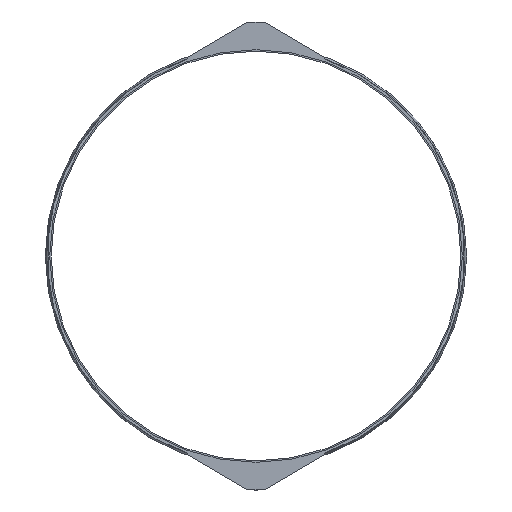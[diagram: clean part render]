
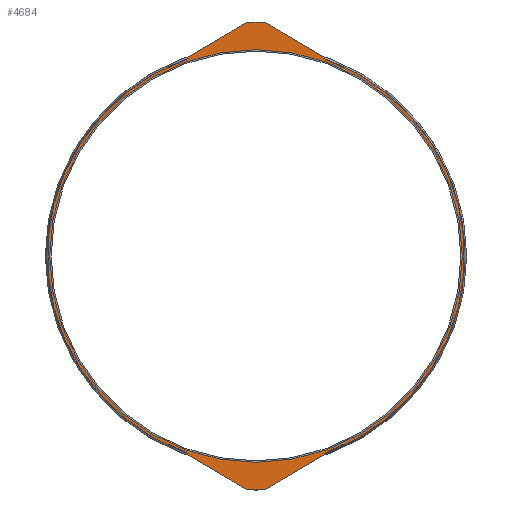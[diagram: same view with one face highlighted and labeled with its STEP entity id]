
A CAD part, left-side view. The second image highlights one B-rep face of the part: STEP entity #4684.
In plain terms, the highlighted planar face has unit normal (-1, 0, 0).
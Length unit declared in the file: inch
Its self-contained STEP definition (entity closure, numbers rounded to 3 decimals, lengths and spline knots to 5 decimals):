
#134=FACE_BOUND('',#814,.T.);
#300=PLANE('',#5095);
#539=FACE_OUTER_BOUND('',#813,.T.);
#813=EDGE_LOOP('',(#4140,#4141,#4142,#4143,#4144,#4145,#4146,#4147,#4148,
#4149,#4150,#4151,#4152,#4153,#4154,#4155,#4156,#4157,#4158,#4159));
#814=EDGE_LOOP('',(#4160,#4161));
#973=LINE('',#6759,#1422);
#977=LINE('',#6771,#1426);
#981=LINE('',#6783,#1430);
#985=LINE('',#6795,#1434);
#987=LINE('',#6800,#1436);
#1206=LINE('',#7611,#1655);
#1210=LINE('',#7623,#1659);
#1214=LINE('',#7635,#1663);
#1218=LINE('',#7645,#1667);
#1221=LINE('',#7651,#1670);
#1422=VECTOR('',#5479,0.3937);
#1426=VECTOR('',#5491,0.3937);
#1430=VECTOR('',#5503,0.3937);
#1434=VECTOR('',#5515,0.3937);
#1436=VECTOR('',#5519,0.3937);
#1655=VECTOR('',#6082,0.3937);
#1659=VECTOR('',#6094,0.3937);
#1663=VECTOR('',#6106,0.3937);
#1667=VECTOR('',#6118,0.3937);
#1670=VECTOR('',#6123,0.3937);
#1739=CIRCLE('',#4808,0.063);
#1741=CIRCLE('',#4812,0.125);
#1743=CIRCLE('',#4816,0.125);
#1745=CIRCLE('',#4820,0.063);
#1750=CIRCLE('',#4829,54.625);
#1803=CIRCLE('',#4993,0.063);
#1805=CIRCLE('',#4997,0.125);
#1807=CIRCLE('',#5001,0.125);
#1809=CIRCLE('',#5005,0.063);
#1811=CIRCLE('',#5011,54.625);
#1863=CIRCLE('',#5093,54.);
#1864=CIRCLE('',#5094,54.);
#1988=VERTEX_POINT('',#6749);
#1989=VERTEX_POINT('',#6751);
#1991=VERTEX_POINT('',#6757);
#1993=VERTEX_POINT('',#6763);
#1995=VERTEX_POINT('',#6769);
#1997=VERTEX_POINT('',#6775);
#1999=VERTEX_POINT('',#6781);
#2001=VERTEX_POINT('',#6787);
#2003=VERTEX_POINT('',#6793);
#2005=VERTEX_POINT('',#6799);
#2014=VERTEX_POINT('',#6821);
#2206=VERTEX_POINT('',#7602);
#2207=VERTEX_POINT('',#7604);
#2209=VERTEX_POINT('',#7610);
#2211=VERTEX_POINT('',#7616);
#2213=VERTEX_POINT('',#7622);
#2215=VERTEX_POINT('',#7628);
#2217=VERTEX_POINT('',#7634);
#2219=VERTEX_POINT('',#7640);
#2221=VERTEX_POINT('',#7649);
#2285=VERTEX_POINT('',#7841);
#2286=VERTEX_POINT('',#7843);
#2468=EDGE_CURVE('',#1988,#1989,#1739,.T.);
#2472=EDGE_CURVE('',#1991,#1988,#973,.T.);
#2475=EDGE_CURVE('',#1993,#1991,#1741,.T.);
#2478=EDGE_CURVE('',#1995,#1993,#977,.T.);
#2481=EDGE_CURVE('',#1997,#1995,#1743,.T.);
#2484=EDGE_CURVE('',#1999,#1997,#981,.T.);
#2487=EDGE_CURVE('',#2001,#1999,#1745,.T.);
#2490=EDGE_CURVE('',#2003,#2001,#985,.T.);
#2492=EDGE_CURVE('',#1989,#2005,#987,.T.);
#2504=EDGE_CURVE('',#2014,#2003,#1750,.T.);
#2790=EDGE_CURVE('',#2207,#2206,#1803,.T.);
#2793=EDGE_CURVE('',#2209,#2207,#1206,.T.);
#2796=EDGE_CURVE('',#2211,#2209,#1805,.T.);
#2799=EDGE_CURVE('',#2213,#2211,#1210,.T.);
#2802=EDGE_CURVE('',#2215,#2213,#1807,.T.);
#2805=EDGE_CURVE('',#2217,#2215,#1214,.T.);
#2808=EDGE_CURVE('',#2219,#2217,#1809,.T.);
#2811=EDGE_CURVE('',#2014,#2219,#1218,.T.);
#2814=EDGE_CURVE('',#2206,#2221,#1221,.T.);
#2819=EDGE_CURVE('',#2005,#2221,#1811,.T.);
#2910=EDGE_CURVE('',#2286,#2285,#1863,.T.);
#2911=EDGE_CURVE('',#2285,#2286,#1864,.T.);
#4140=ORIENTED_EDGE('',*,*,#2504,.F.);
#4141=ORIENTED_EDGE('',*,*,#2811,.T.);
#4142=ORIENTED_EDGE('',*,*,#2808,.T.);
#4143=ORIENTED_EDGE('',*,*,#2805,.T.);
#4144=ORIENTED_EDGE('',*,*,#2802,.T.);
#4145=ORIENTED_EDGE('',*,*,#2799,.T.);
#4146=ORIENTED_EDGE('',*,*,#2796,.T.);
#4147=ORIENTED_EDGE('',*,*,#2793,.T.);
#4148=ORIENTED_EDGE('',*,*,#2790,.T.);
#4149=ORIENTED_EDGE('',*,*,#2814,.T.);
#4150=ORIENTED_EDGE('',*,*,#2819,.F.);
#4151=ORIENTED_EDGE('',*,*,#2492,.F.);
#4152=ORIENTED_EDGE('',*,*,#2468,.F.);
#4153=ORIENTED_EDGE('',*,*,#2472,.F.);
#4154=ORIENTED_EDGE('',*,*,#2475,.F.);
#4155=ORIENTED_EDGE('',*,*,#2478,.F.);
#4156=ORIENTED_EDGE('',*,*,#2481,.F.);
#4157=ORIENTED_EDGE('',*,*,#2484,.F.);
#4158=ORIENTED_EDGE('',*,*,#2487,.F.);
#4159=ORIENTED_EDGE('',*,*,#2490,.F.);
#4160=ORIENTED_EDGE('',*,*,#2910,.T.);
#4161=ORIENTED_EDGE('',*,*,#2911,.T.);
#4684=ADVANCED_FACE('',(#539,#134),#300,.T.);
#4808=AXIS2_PLACEMENT_3D('',#6752,#5472,#5473);
#4812=AXIS2_PLACEMENT_3D('',#6765,#5485,#5486);
#4816=AXIS2_PLACEMENT_3D('',#6777,#5497,#5498);
#4820=AXIS2_PLACEMENT_3D('',#6789,#5509,#5510);
#4829=AXIS2_PLACEMENT_3D('',#6823,#5539,#5540);
#4993=AXIS2_PLACEMENT_3D('',#7605,#6076,#6077);
#4997=AXIS2_PLACEMENT_3D('',#7617,#6088,#6089);
#5001=AXIS2_PLACEMENT_3D('',#7629,#6100,#6101);
#5005=AXIS2_PLACEMENT_3D('',#7641,#6112,#6113);
#5011=AXIS2_PLACEMENT_3D('',#7661,#6133,#6134);
#5093=AXIS2_PLACEMENT_3D('',#7844,#6336,#6337);
#5094=AXIS2_PLACEMENT_3D('',#7845,#6338,#6339);
#5095=AXIS2_PLACEMENT_3D('',#7846,#6340,#6341);
#5472=DIRECTION('center_axis',(1.,0.,0.));
#5473=DIRECTION('ref_axis',(0.,-1.,0.));
#5479=DIRECTION('',(0.,0.862,0.507));
#5485=DIRECTION('center_axis',(1.,0.,0.));
#5486=DIRECTION('ref_axis',(0.,-0.507,0.862));
#5491=DIRECTION('',(0.,1.,0.));
#5497=DIRECTION('center_axis',(1.,0.,0.));
#5498=DIRECTION('ref_axis',(0.,0.,1.));
#5503=DIRECTION('',(0.,0.862,-0.507));
#5509=DIRECTION('center_axis',(1.,0.,0.));
#5510=DIRECTION('ref_axis',(0.,0.507,0.862));
#5515=DIRECTION('',(0.,0.,-1.));
#5519=DIRECTION('',(0.,0.,1.));
#5539=DIRECTION('center_axis',(1.,0.,0.));
#5540=DIRECTION('ref_axis',(0.,0.,-1.));
#6076=DIRECTION('center_axis',(-1.,0.,0.));
#6077=DIRECTION('ref_axis',(0.,-1.,0.));
#6082=DIRECTION('',(0.,0.862,-0.507));
#6088=DIRECTION('center_axis',(-1.,0.,0.));
#6089=DIRECTION('ref_axis',(0.,-0.507,-0.862));
#6094=DIRECTION('',(0.,1.,0.));
#6100=DIRECTION('center_axis',(-1.,0.,0.));
#6101=DIRECTION('ref_axis',(0.,0.,-1.));
#6106=DIRECTION('',(0.,0.862,0.507));
#6112=DIRECTION('center_axis',(-1.,0.,0.));
#6113=DIRECTION('ref_axis',(0.,0.507,-0.862));
#6118=DIRECTION('',(0.,0.,1.));
#6123=DIRECTION('',(0.,0.,-1.));
#6133=DIRECTION('center_axis',(1.,0.,0.));
#6134=DIRECTION('ref_axis',(0.,0.,-1.));
#6336=DIRECTION('center_axis',(1.,0.,0.));
#6337=DIRECTION('ref_axis',(0.,0.,-1.));
#6338=DIRECTION('center_axis',(1.,0.,0.));
#6339=DIRECTION('ref_axis',(0.,0.,-1.));
#6340=DIRECTION('center_axis',(-1.,0.,0.));
#6341=DIRECTION('ref_axis',(0.,0.,1.));
#6749=CARTESIAN_POINT('',(-7.5,17.96894,-51.9674));
#6751=CARTESIAN_POINT('',(-7.5,18.,-51.91309));
#6752=CARTESIAN_POINT('Origin',(-7.5,17.937,-51.91309));
#6757=CARTESIAN_POINT('',(-7.5,2.42934,-61.10774));
#6759=CARTESIAN_POINT('',(-7.5,2.42934,-61.10774));
#6763=CARTESIAN_POINT('',(-7.5,2.36596,-61.125));
#6765=CARTESIAN_POINT('Origin',(-7.5,2.36596,-61.));
#6769=CARTESIAN_POINT('',(-7.5,-2.36596,-61.125));
#6771=CARTESIAN_POINT('',(-7.5,0.,-61.125));
#6775=CARTESIAN_POINT('',(-7.5,-2.42934,-61.10774));
#6777=CARTESIAN_POINT('Origin',(-7.5,-2.36596,-61.));
#6781=CARTESIAN_POINT('',(-7.5,-17.96894,-51.9674));
#6783=CARTESIAN_POINT('',(-7.5,-17.96894,-51.9674));
#6787=CARTESIAN_POINT('',(-7.5,-18.,-51.91309));
#6789=CARTESIAN_POINT('Origin',(-7.5,-17.937,-51.91309));
#6793=CARTESIAN_POINT('',(-7.5,-18.,-51.57413));
#6795=CARTESIAN_POINT('',(-7.5,-18.,-51.57413));
#6799=CARTESIAN_POINT('',(-7.5,18.,-51.57413));
#6800=CARTESIAN_POINT('',(-7.5,18.,-51.91309));
#6821=CARTESIAN_POINT('',(-7.5,-18.,51.57413));
#6823=CARTESIAN_POINT('Origin',(-7.5,0.,0.));
#7602=CARTESIAN_POINT('',(-7.5,18.,51.91309));
#7604=CARTESIAN_POINT('',(-7.5,17.96894,51.9674));
#7605=CARTESIAN_POINT('Origin',(-7.5,17.937,51.91309));
#7610=CARTESIAN_POINT('',(-7.5,2.42934,61.10774));
#7611=CARTESIAN_POINT('',(-7.5,2.42934,61.10774));
#7616=CARTESIAN_POINT('',(-7.5,2.36596,61.125));
#7617=CARTESIAN_POINT('Origin',(-7.5,2.36596,61.));
#7622=CARTESIAN_POINT('',(-7.5,-2.36596,61.125));
#7623=CARTESIAN_POINT('',(-7.5,0.,61.125));
#7628=CARTESIAN_POINT('',(-7.5,-2.42934,61.10774));
#7629=CARTESIAN_POINT('Origin',(-7.5,-2.36596,61.));
#7634=CARTESIAN_POINT('',(-7.5,-17.96894,51.9674));
#7635=CARTESIAN_POINT('',(-7.5,-17.96894,51.9674));
#7640=CARTESIAN_POINT('',(-7.5,-18.,51.91309));
#7641=CARTESIAN_POINT('Origin',(-7.5,-17.937,51.91309));
#7645=CARTESIAN_POINT('',(-7.5,-18.,51.57413));
#7649=CARTESIAN_POINT('',(-7.5,18.,51.57413));
#7651=CARTESIAN_POINT('',(-7.5,18.,51.91309));
#7661=CARTESIAN_POINT('Origin',(-7.5,0.,0.));
#7841=CARTESIAN_POINT('',(-7.5,-54.,0.));
#7843=CARTESIAN_POINT('',(-7.5,54.,0.));
#7844=CARTESIAN_POINT('Origin',(-7.5,0.,0.));
#7845=CARTESIAN_POINT('Origin',(-7.5,0.,0.));
#7846=CARTESIAN_POINT('Origin',(-7.5,54.625,0.));
